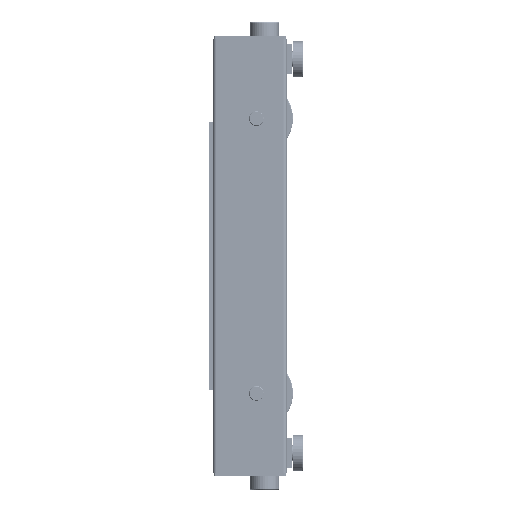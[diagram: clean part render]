
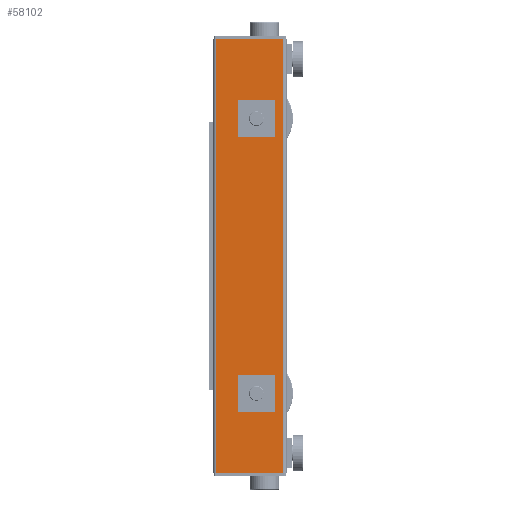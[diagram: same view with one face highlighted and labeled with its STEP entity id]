
A CAD part, left-side view. The second image highlights one B-rep face of the part: STEP entity #58102.
In plain terms, the highlighted planar face has unit normal (-1, 0, 0).
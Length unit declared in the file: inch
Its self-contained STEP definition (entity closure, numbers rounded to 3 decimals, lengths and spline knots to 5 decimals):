
#1224 = CARTESIAN_POINT ( 'NONE',  ( 0., 9.5, 29.21875 ) ) ;
#6663 = VERTEX_POINT ( 'NONE', #1224 ) ;
#9190 = CIRCLE ( 'NONE', #112985, 0.984 ) ;
#9970 = VERTEX_POINT ( 'NONE', #23986 ) ;
#10044 = EDGE_CURVE ( 'NONE', #155735, #28702, #66167, .T. ) ;
#10934 = ORIENTED_EDGE ( 'NONE', *, *, #67835, .T. ) ;
#10968 = CARTESIAN_POINT ( 'NONE',  ( 0., 4.109, 18.50025 ) ) ;
#18749 = DIRECTION ( 'NONE',  ( 0., 0., -1. ) ) ;
#22880 = CIRCLE ( 'NONE', #87444, 0.984 ) ;
#23986 = CARTESIAN_POINT ( 'NONE',  ( 0., 4.109, 19.48425 ) ) ;
#25872 = DIRECTION ( 'NONE',  ( 0., 0., -1. ) ) ;
#28684 = EDGE_CURVE ( 'NONE', #6663, #155735, #68747, .T. ) ;
#28702 = VERTEX_POINT ( 'NONE', #121541 ) ;
#30248 = DIRECTION ( 'NONE',  ( 0., 0., -1. ) ) ;
#30490 = VECTOR ( 'NONE', #58906, 39.37008 ) ;
#31638 = CARTESIAN_POINT ( 'NONE',  ( 0., 0.5, -29.21875 ) ) ;
#36661 = CIRCLE ( 'NONE', #137873, 0.984 ) ;
#37150 = DIRECTION ( 'NONE',  ( 1., 0., 0. ) ) ;
#37935 = CARTESIAN_POINT ( 'NONE',  ( 0., 9.5, -29.21875 ) ) ;
#38191 = AXIS2_PLACEMENT_3D ( 'NONE', #156935, #127939, #62841 ) ;
#41006 = ORIENTED_EDGE ( 'NONE', *, *, #150883, .T. ) ;
#41474 = DIRECTION ( 'NONE',  ( 0., -1., 0. ) ) ;
#41696 = ORIENTED_EDGE ( 'NONE', *, *, #146708, .T. ) ;
#43381 = DIRECTION ( 'NONE',  ( 1., 0., 0. ) ) ;
#43438 = FACE_OUTER_BOUND ( 'NONE', #63332, .T. ) ;
#49482 = CARTESIAN_POINT ( 'NONE',  ( 0., 4.109, -18.49975 ) ) ;
#55590 = CARTESIAN_POINT ( 'NONE',  ( 0., 9.5, 29.21875 ) ) ;
#58102 = ADVANCED_FACE ( 'NONE', ( #136679, #163963, #43438 ), #58390, .F. ) ;
#58224 = CARTESIAN_POINT ( 'NONE',  ( 0., 4.109, -19.48375 ) ) ;
#58390 = PLANE ( 'NONE',  #90566 ) ;
#58906 = DIRECTION ( 'NONE',  ( 0., -1., 0. ) ) ;
#60005 = VERTEX_POINT ( 'NONE', #95683 ) ;
#62841 = DIRECTION ( 'NONE',  ( 0., 0., -1. ) ) ;
#63332 = EDGE_LOOP ( 'NONE', ( #155777, #84230, #123610, #10934 ) ) ;
#64588 = DIRECTION ( 'NONE',  ( 1., 0., 0. ) ) ;
#66167 = LINE ( 'NONE', #93483, #155289 ) ;
#67835 = EDGE_CURVE ( 'NONE', #6663, #136525, #120683, .T. ) ;
#68396 = VERTEX_POINT ( 'NONE', #58224 ) ;
#68747 = LINE ( 'NONE', #96892, #109288 ) ;
#74160 = DIRECTION ( 'NONE',  ( 0., 0., -1. ) ) ;
#74685 = CARTESIAN_POINT ( 'NONE',  ( 0., 4.109, 17.51625 ) ) ;
#81970 = VERTEX_POINT ( 'NONE', #74685 ) ;
#84230 = ORIENTED_EDGE ( 'NONE', *, *, #10044, .F. ) ;
#85596 = CARTESIAN_POINT ( 'NONE',  ( 0., 4.109, -18.49975 ) ) ;
#87444 = AXIS2_PLACEMENT_3D ( 'NONE', #85596, #43381, #18749 ) ;
#90566 = AXIS2_PLACEMENT_3D ( 'NONE', #97118, #150740, #30248 ) ;
#93483 = CARTESIAN_POINT ( 'NONE',  ( 0., 0.5, 29.21875 ) ) ;
#94342 = DIRECTION ( 'NONE',  ( 0., 0., -1. ) ) ;
#95683 = CARTESIAN_POINT ( 'NONE',  ( 0., 4.109, -17.51575 ) ) ;
#96892 = CARTESIAN_POINT ( 'NONE',  ( 0., 0.5, 29.21875 ) ) ;
#97118 = CARTESIAN_POINT ( 'NONE',  ( 0., 0.5, 29.21875 ) ) ;
#97624 = LINE ( 'NONE', #31638, #30490 ) ;
#101603 = VECTOR ( 'NONE', #121573, 39.37008 ) ;
#107557 = ORIENTED_EDGE ( 'NONE', *, *, #126115, .T. ) ;
#108787 = ORIENTED_EDGE ( 'NONE', *, *, #135360, .T. ) ;
#109288 = VECTOR ( 'NONE', #41474, 39.37008 ) ;
#112985 = AXIS2_PLACEMENT_3D ( 'NONE', #10968, #64588, #25872 ) ;
#114060 = CIRCLE ( 'NONE', #38191, 0.984 ) ;
#116580 = EDGE_CURVE ( 'NONE', #136525, #28702, #97624, .T. ) ;
#120683 = LINE ( 'NONE', #55590, #101603 ) ;
#121541 = CARTESIAN_POINT ( 'NONE',  ( 0., 0.5, -29.21875 ) ) ;
#121573 = DIRECTION ( 'NONE',  ( 0., 0., -1. ) ) ;
#122605 = EDGE_LOOP ( 'NONE', ( #108787, #41696 ) ) ;
#123610 = ORIENTED_EDGE ( 'NONE', *, *, #28684, .F. ) ;
#126115 = EDGE_CURVE ( 'NONE', #81970, #9970, #114060, .T. ) ;
#127939 = DIRECTION ( 'NONE',  ( 1., 0., 0. ) ) ;
#135360 = EDGE_CURVE ( 'NONE', #68396, #60005, #22880, .T. ) ;
#136525 = VERTEX_POINT ( 'NONE', #37935 ) ;
#136679 = FACE_BOUND ( 'NONE', #143471, .T. ) ;
#137873 = AXIS2_PLACEMENT_3D ( 'NONE', #49482, #37150, #74160 ) ;
#143471 = EDGE_LOOP ( 'NONE', ( #107557, #41006 ) ) ;
#146708 = EDGE_CURVE ( 'NONE', #60005, #68396, #36661, .T. ) ;
#148641 = CARTESIAN_POINT ( 'NONE',  ( 0., 0.5, 29.21875 ) ) ;
#150740 = DIRECTION ( 'NONE',  ( 1., 0., 0. ) ) ;
#150883 = EDGE_CURVE ( 'NONE', #9970, #81970, #9190, .T. ) ;
#155289 = VECTOR ( 'NONE', #94342, 39.37008 ) ;
#155735 = VERTEX_POINT ( 'NONE', #148641 ) ;
#155777 = ORIENTED_EDGE ( 'NONE', *, *, #116580, .T. ) ;
#156935 = CARTESIAN_POINT ( 'NONE',  ( 0., 4.109, 18.50025 ) ) ;
#163963 = FACE_BOUND ( 'NONE', #122605, .T. ) ;
